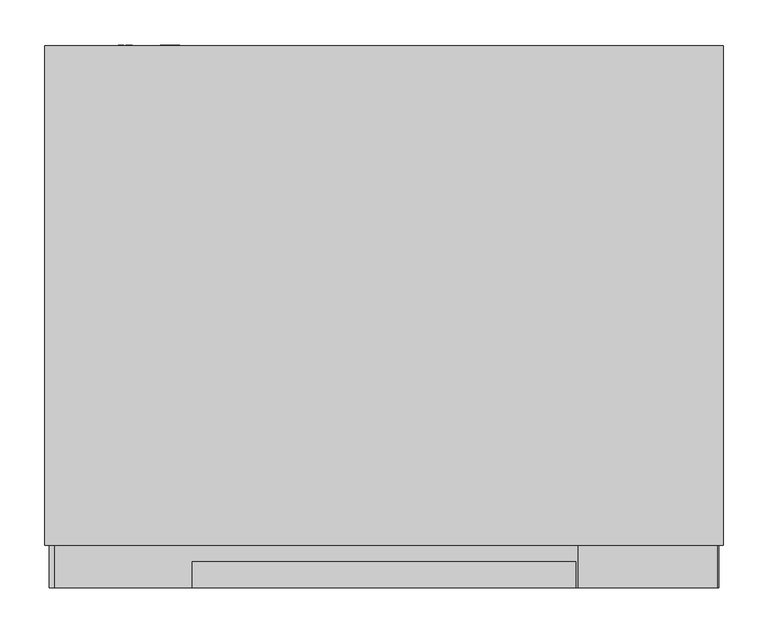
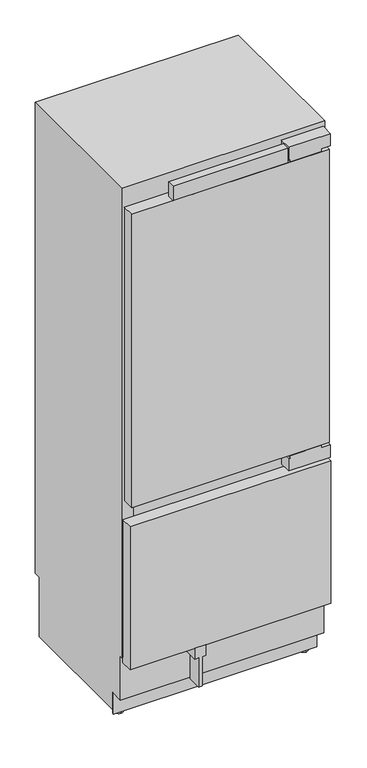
"""IFC4 building model written with IfcOpenShell, lengths in millimetres: proxy geometry, 11271080_CN_KF2801VI_R : 38280101_CN_11271080_KF2801VI_R."""

from ifc_helpers import new_model, si_unit, point, frame, frame_2d, origin, place, context, project, spatial, polyline, circle_curve, trimmed, segment, composite_curve, outline, extrude, source, transform, mapped, element, save
from ifc_brep_helpers import plane_surface, cylinder_surface, advanced_brep


def specialty_equipment_cda442a2(model_context):
    return source(origin(), model_context, "Body", "SolidModel", [
        extrude(outline(polyline([(247.0, -133.0), (205.0, -133.0), (205.0, -118.5), (90.0, -118.5), (90.0, -105.5), (205.0, -105.5), (205.0, -91.0), (247.0, -91.0), (247.0, -133.0)])), frame((0.0, 0.0, 0.0), z_axis=(0.0, 1.0, 0.0), x_axis=(0.0, 0.0, 1.0)), (0.0, 0.0, 1.0), 54.0),
        extrude(outline(polyline([(-367.0, 47.0), (367.0, 47.0), (367.0, 0.0), (-367.0, 0.0), (-367.0, 47.0)])), frame((0.0, 0.0, 883.0), z_axis=(0.0, 0.0, 1.0), x_axis=(1.0, 0.0, 0.0)), (0.0, 0.0, 1.0), 1153.0),
        extrude(outline(polyline([(-373.0, 47.0), (373.0, 47.0), (373.0, 0.0), (-373.0, 0.0), (-373.0, 47.0)])), frame((0.0, 0.0, 247.0), z_axis=(0.0, 0.0, 1.0), x_axis=(1.0, 0.0, 0.0)), (0.0, 0.0, 1.0), 562.0),
        extrude(outline(polyline([(-213.5, 29.0), (213.5, 29.0), (213.5, 0.0), (-213.5, 0.0), (-213.5, 29.0)])), frame((0.0, 0.0, 2036.0), z_axis=(0.0, 0.0, 1.0), x_axis=(1.0, 0.0, 0.0)), (0.0, 0.0, 1.0), 56.0),
        extrude(outline(polyline([(180.5, 1973.4), (217.625, 1914.0), (216.4457524, 1914.0), (179.3207524, 1973.4), (180.5, 1973.4)])), frame((-69.0, 0.0, 0.0), z_axis=(1.0, 0.0, 0.0), x_axis=(0.0, 1.0, 0.0)), (0.0, 0.0, 1.0), 138.0),
        extrude(outline(polyline([(544.0, 1998.0), (544.0, 1796.0), (474.0, 1796.0), (433.0, 1907.0), (222.0, 1907.0), (177.0, 1979.0), (129.0, 1998.0), (544.0, 1998.0)])), frame((-332.0, 0.0, 0.0), z_axis=(1.0, 0.0, 0.0), x_axis=(0.0, 1.0, 0.0)), (0.0, 0.0, 1.0), 664.0),
        extrude(outline(polyline([(-332.0, 544.0), (332.0, 544.0), (332.0, 519.0), (-332.0, 519.0), (-332.0, 544.0)])), frame((0.0, 0.0, 303.0), z_axis=(0.0, 0.0, 1.0), x_axis=(1.0, 0.0, 0.0)), (0.0, 0.0, 1.0), 467.0),
        extrude(outline(polyline([(-332.0, 544.0), (332.0, 544.0), (332.0, 47.0), (-332.0, 47.0), (-332.0, 544.0)])), frame((0.0, 0.0, 770.0), z_axis=(0.0, 0.0, 1.0), x_axis=(1.0, 0.0, 0.0)), (0.0, 0.0, 1.0), 144.0),
        extrude(outline(polyline([(46.0510837, -237.101717), (37.4134902, -239.1745179), (46.0453554, -241.6868463), (46.0453554, -243.5601414), (37.4089549, -246.0799633), (46.0493903, -248.1581876), (46.0493903, -249.4649805), (36.0005458, -246.7156324), (36.0005458, -245.372208), (44.8261022, -242.6342221), (35.9987467, -240.0620509), (35.9987287, -238.5451466), (46.0510837, -235.800191), (46.0510837, -237.101717)])), frame((0.0, 604.0, 0.0), z_axis=(0.0, 1.0, 0.0), x_axis=(0.0, 0.0, 1.0)), (0.0, 0.0, 1.0), 1.0),
        extrude(outline(polyline([(46.0485238, -228.7401503), (41.1363122, -228.7401503), (46.0468162, -233.884602), (46.0468162, -235.6328316), (41.9156889, -231.3260313), (36.000035, -235.8032231), (36.000035, -234.2795519), (41.0742849, -230.4391666), (39.4525334, -228.7395503), (35.9999292, -228.7395503), (35.9999292, -227.4795491), (46.0485238, -227.4795491), (46.0485238, -228.7401503)])), frame((0.0, 604.0, 0.0), z_axis=(0.0, 1.0, 0.0), x_axis=(0.0, 0.0, 1.0)), (0.0, 0.0, 1.0), 1.0),
        extrude(outline(composite_curve([segment(trimmed(circle_curve(frame_2d((41.0, -238.0)), 7.5), [point((33.5, -238.0))], [point((48.5, -238.0))], False, "CARTESIAN"), True, "CONTINUOUS"), segment(trimmed(circle_curve(frame_2d((41.0, -238.0)), 7.5), [point((48.5, -238.0))], [point((33.5, -238.0))], False, "CARTESIAN"), True, "CONTINUOUS")], self_intersect=False)), frame((0.0, 577.0, 0.0), z_axis=(0.0, 1.0, 0.0), x_axis=(0.0, 0.0, 1.0)), (0.0, 0.0, 1.0), 27.0),
        extrude(outline(polyline([(2095.0, 371.5), (2095.0, 216.5), (2047.0, 216.5), (2047.0, 222.5), (2036.5, 222.5), (2036.5, 337.5), (2047.0, 337.5), (2047.0, 371.5), (2095.0, 371.5)])), frame((0.0, 0.0, 0.0), z_axis=(0.0, 1.0, 0.0), x_axis=(0.0, 0.0, 1.0)), (0.0, 0.0, 1.0), 47.0),
        extrude(outline(polyline([(871.0, 216.5), (823.0, 216.5), (823.0, 371.5), (871.0, 371.5), (871.0, 337.5), (881.0, 337.5), (881.0, 222.5), (871.0, 222.5), (871.0, 216.5)])), frame((0.0, 0.0, 0.0), z_axis=(0.0, 1.0, 0.0), x_axis=(0.0, 0.0, 1.0)), (0.0, 0.0, 1.0), 47.0),
        extrude(outline(polyline([(99.0373308, -287.7645771), (97.7615342, -287.7645771), (97.7615342, -281.8195541), (94.7968516, -281.8195541), (94.7968516, -287.469579), (93.5246295, -287.469579), (93.5246295, -281.8415693), (90.2570046, -281.8415693), (90.2570046, -287.9619689), (88.9546219, -287.9619689), (88.9546219, -280.5443524), (99.0373308, -280.5443524), (99.0373308, -287.7645771)])), frame((0.0, 604.0, 0.0), z_axis=(0.0, 1.0, 0.0), x_axis=(0.0, 0.0, 1.0)), (0.0, 0.0, 1.0), 1.0),
        extrude(outline(polyline([(99.0458, -291.0619704), (90.2663944, -291.0619704), (90.2663944, -296.1145879), (89.0134802, -296.1145879), (89.0134802, -289.8423809), (99.0458, -289.8423809), (99.0458, -291.0619704)])), frame((0.0, 604.0, 0.0), z_axis=(0.0, 1.0, 0.0), x_axis=(0.0, 0.0, 1.0)), (0.0, 0.0, 1.0), 1.0),
        extrude(outline(composite_curve([segment(trimmed(circle_curve(frame_2d((94.0, -288.0)), 7.5), [point((86.5, -288.0))], [point((101.5, -288.0))], False, "CARTESIAN"), True, "CONTINUOUS"), segment(trimmed(circle_curve(frame_2d((94.0, -288.0)), 7.5), [point((101.5, -288.0))], [point((86.5, -288.0))], False, "CARTESIAN"), True, "CONTINUOUS")], self_intersect=False)), frame((0.0, 577.0, 0.0), z_axis=(0.0, 1.0, 0.0), x_axis=(0.0, 0.0, 1.0)), (0.0, 0.0, 1.0), 27.0),
        extrude(outline(polyline([(-378.0, 104.0), (378.0, 104.0), (378.0, 99.0), (-378.0, 99.0), (-378.0, 104.0)])), frame((0.0, 0.0, 14.0), z_axis=(0.0, 0.0, 1.0), x_axis=(1.0, 0.0, 0.0)), (0.0, 0.0, 1.0), 83.0),
        advanced_brep(
        [(-344.0, 139.0, 0.0), (-344.0, 109.0, 0.0), (-344.0, 139.0, 7.0), (-344.0, 109.0, 7.0), (-344.0, 128.7, 7.0), (-344.0, 119.3, 7.0), (-344.0, 128.7, 28.0), (-344.0, 119.3, 28.0)],
        [
            (0, 1, circle_curve(frame((-344.0, 124.0, 0.0), z_axis=(0.0, 0.0, -1.0), x_axis=(1.0, 0.0, 0.0)), 15.0)),
            (1, 0, circle_curve(frame((-344.0, 124.0, 0.0), z_axis=(0.0, 0.0, -1.0), x_axis=(1.0, 0.0, 0.0)), 15.0)),
            (2, 3, circle_curve(frame((-344.0, 124.0, 7.0), z_axis=(0.0, 0.0, 1.0), x_axis=(1.0, 0.0, 0.0)), 15.0)),
            (3, 2, circle_curve(frame((-344.0, 124.0, 7.0), z_axis=(0.0, 0.0, 1.0), x_axis=(1.0, 0.0, 0.0)), 15.0)),
            (4, 5, circle_curve(frame((-344.0, 124.0, 7.0), z_axis=(0.0, 0.0, -1.0), x_axis=(0.0, -1.0, 0.0)), 4.7)),
            (5, 4, circle_curve(frame((-344.0, 124.0, 7.0), z_axis=(0.0, 0.0, -1.0), x_axis=(0.0, -1.0, 0.0)), 4.7)),
            (0, 2),
            (3, 1),
            (6, 7, circle_curve(frame((-344.0, 124.0, 28.0), z_axis=(0.0, 0.0, 1.0), x_axis=(0.0, -1.0, 0.0)), 4.7)),
            (7, 6, circle_curve(frame((-344.0, 124.0, 28.0), z_axis=(0.0, 0.0, 1.0), x_axis=(0.0, -1.0, 0.0)), 4.7)),
            (7, 5),
            (4, 6),
        ],
        [
            plane_surface(frame((-329.0, 124.0, 0.0), z_axis=(0.0, 0.0, -1.0), x_axis=(0.0, -1.0, 0.0))),
            plane_surface(frame((-329.0, 124.0, 7.0), z_axis=(0.0, 0.0, 1.0), x_axis=(0.0, 1.0, 0.0))),
            cylinder_surface(frame((-344.0, 124.0, 7.0), z_axis=(0.0, 0.0, -1.0), x_axis=(1.0, 0.0, 0.0)), 15.0),
            plane_surface(frame((-344.0, 119.3, 28.0), z_axis=(0.0, 0.0, 1.0), x_axis=(1.0, 0.0, 0.0))),
            cylinder_surface(frame((-344.0, 124.0, 28.0), z_axis=(0.0, 0.0, -1.0), x_axis=(0.0, -1.0, 0.0)), 4.7),
        ],
        [
            (0, [[1, 2]]),
            (1, [[3, 4], [5, 6]]),
            (2, [[-1, 7, -4, 8]]),
            (2, [[-2, -8, -3, -7]]),
            (3, [[9, 10]]),
            (4, [[-10, 11, -5, 12]]),
            (4, [[-9, -12, -6, -11]]),
        ],
    ),
        advanced_brep(
        [(344.0, 139.0, 0.0), (344.0, 109.0, 0.0), (344.0, 139.0, 7.0), (344.0, 109.0, 7.0), (344.0, 128.7, 7.0), (344.0, 119.3, 7.0), (344.0, 128.7, 28.0), (344.0, 119.3, 28.0)],
        [
            (0, 1, circle_curve(frame((344.0, 124.0, 0.0), z_axis=(0.0, 0.0, -1.0), x_axis=(1.0, 0.0, 0.0)), 15.0)),
            (1, 0, circle_curve(frame((344.0, 124.0, 0.0), z_axis=(0.0, 0.0, -1.0), x_axis=(1.0, 0.0, 0.0)), 15.0)),
            (2, 3, circle_curve(frame((344.0, 124.0, 7.0), z_axis=(0.0, 0.0, 1.0), x_axis=(1.0, 0.0, 0.0)), 15.0)),
            (3, 2, circle_curve(frame((344.0, 124.0, 7.0), z_axis=(0.0, 0.0, 1.0), x_axis=(1.0, 0.0, 0.0)), 15.0)),
            (4, 5, circle_curve(frame((344.0, 124.0, 7.0), z_axis=(0.0, 0.0, -1.0), x_axis=(0.0, -1.0, 0.0)), 4.7)),
            (5, 4, circle_curve(frame((344.0, 124.0, 7.0), z_axis=(0.0, 0.0, -1.0), x_axis=(0.0, -1.0, 0.0)), 4.7)),
            (0, 2),
            (3, 1),
            (6, 7, circle_curve(frame((344.0, 124.0, 28.0), z_axis=(0.0, 0.0, 1.0), x_axis=(0.0, -1.0, 0.0)), 4.7)),
            (7, 6, circle_curve(frame((344.0, 124.0, 28.0), z_axis=(0.0, 0.0, 1.0), x_axis=(0.0, -1.0, 0.0)), 4.7)),
            (7, 5),
            (4, 6),
        ],
        [
            plane_surface(frame((-329.0, 124.0, 0.0), z_axis=(0.0, 0.0, -1.0), x_axis=(0.0, -1.0, 0.0))),
            plane_surface(frame((-329.0, 124.0, 7.0), z_axis=(0.0, 0.0, 1.0), x_axis=(0.0, 1.0, 0.0))),
            cylinder_surface(frame((344.0, 124.0, 7.0), z_axis=(0.0, 0.0, -1.0), x_axis=(1.0, 0.0, 0.0)), 15.0),
            plane_surface(frame((-344.0, 119.3, 28.0), z_axis=(0.0, 0.0, 1.0), x_axis=(1.0, 0.0, 0.0))),
            cylinder_surface(frame((344.0, 124.0, 28.0), z_axis=(0.0, 0.0, -1.0), x_axis=(0.0, -1.0, 0.0)), 4.7),
        ],
        [
            (0, [[1, 2]]),
            (1, [[3, 4], [5, 6]]),
            (2, [[-1, 7, -4, 8]]),
            (2, [[-2, -8, -3, -7]]),
            (3, [[9, 10]]),
            (4, [[-10, 11, -5, 12]]),
            (4, [[-9, -12, -6, -11]]),
        ],
    ),
        advanced_brep(
        [(378.0, 47.0, 2114.0), (378.0, 47.0, 267.0), (378.0, 54.0, 267.0), (378.0, 54.0, 97.0), (378.0, 104.0, 97.0), (378.0, 104.0, 28.0), (378.0, 577.0, 28.0), (378.0, 577.0, 263.0), (378.0, 604.0, 263.0), (378.0, 604.0, 2114.0), (-378.0, 47.0, 2114.0), (-378.0, 604.0, 2114.0), (-378.0, 604.0, 263.0), (-378.0, 577.0, 263.0), (-378.0, 577.0, 28.0), (-378.0, 104.0, 28.0), (-378.0, 104.0, 97.0), (-378.0, 54.0, 97.0), (-378.0, 54.0, 267.0), (-378.0, 47.0, 267.0), (318.0, 577.0, 28.0), (318.0, 577.0, 14.0), (-318.0, 577.0, 14.0), (-318.0, 577.0, 28.0), (318.0, 104.0, 14.0), (-318.0, 104.0, 14.0), (-318.0, 104.0, 28.0), (318.0, 104.0, 28.0), (332.0, 47.0, 1998.0), (332.0, 47.0, 303.0), (-332.0, 47.0, 303.0), (-332.0, 47.0, 1998.0), (332.0, 544.0, 1998.0), (-332.0, 544.0, 1998.0), (-332.0, 544.0, 303.0), (332.0, 544.0, 303.0), (-336.5, 202.8193473, 28.0), (-355.5, 202.8193473, 28.0), (-355.5, 153.1806527, 28.0), (-336.5, 153.1806527, 28.0), (-356.0, 525.8193473, 28.0), (-356.0, 476.1806527, 28.0), (-340.0, 476.1806527, 28.0), (-340.0, 525.8193473, 28.0), (355.5, 153.1806527, 28.0), (355.5, 202.8193473, 28.0), (336.5, 202.8193473, 28.0), (336.5, 153.1806527, 28.0), (340.0, 525.8193473, 28.0), (340.0, 476.1806527, 28.0), (356.0, 476.1806527, 28.0), (356.0, 525.8193473, 28.0), (-336.5, 203.0, 25.0), (-336.5, 153.0, 25.0), (-355.5, 153.0, 25.0), (-355.5, 203.0, 25.0), (-336.5, 178.0, 25.0), (-355.5, 178.0, 25.0), (355.5, 178.0, 25.0), (355.5, 153.0, 25.0), (355.5, 203.0, 25.0), (336.5, 203.0, 25.0), (336.5, 153.0, 25.0), (336.5, 178.0, 25.0), (-356.0, 526.0, 25.0), (-356.0, 476.0, 25.0), (-356.0, 501.0, 25.0), (-340.0, 526.0, 25.0), (-340.0, 476.0, 25.0), (-340.0, 501.0, 25.0), (340.0, 526.0, 25.0), (340.0, 476.0, 25.0), (340.0, 501.0, 25.0), (356.0, 526.0, 25.0), (356.0, 476.0, 25.0), (356.0, 501.0, 25.0)],
        [
            (0, 1),
            (1, 2),
            (2, 3),
            (3, 4),
            (4, 5),
            (5, 6),
            (6, 7),
            (7, 8),
            (8, 9),
            (9, 0),
            (10, 11),
            (11, 12),
            (12, 13),
            (13, 14),
            (14, 15),
            (15, 16),
            (16, 17),
            (17, 18),
            (18, 19),
            (19, 10),
            (9, 11),
            (10, 0),
            (8, 12),
            (7, 13),
            (6, 20),
            (20, 21),
            (21, 22),
            (22, 23),
            (23, 14),
            (21, 24),
            (24, 25),
            (25, 22),
            (4, 16),
            (15, 26),
            (26, 25),
            (24, 27),
            (27, 5),
            (3, 17),
            (2, 18),
            (1, 19),
            (28, 29),
            (29, 30),
            (30, 31),
            (31, 28),
            (32, 33),
            (33, 34),
            (34, 35),
            (35, 32),
            (35, 29),
            (28, 32),
            (34, 30),
            (33, 31),
            (23, 26),
            (36, 37),
            (37, 38),
            (38, 39),
            (39, 36),
            (40, 41),
            (41, 42),
            (42, 43),
            (43, 40),
            (27, 20),
            (44, 45),
            (45, 46),
            (46, 47),
            (47, 44),
            (48, 49),
            (49, 50),
            (50, 51),
            (51, 48),
            (52, 53, circle_curve(frame((-336.5, 178.0, 25.0), z_axis=(-1.0, 0.0, 0.0), x_axis=(0.0, -1.0, 0.0)), 25.0)),
            (53, 54),
            (54, 55, circle_curve(frame((-355.5, 178.0, 25.0), z_axis=(1.0, 0.0, 0.0), x_axis=(0.0, -1.0, 0.0)), 25.0)),
            (55, 52),
            (53, 39, circle_curve(frame((-336.5, 178.0, 25.0), z_axis=(-1.0, 0.0, 0.0), x_axis=(0.0, -1.0, 0.0)), 25.0)),
            (38, 54, circle_curve(frame((-355.5, 178.0, 25.0), z_axis=(1.0, 0.0, 0.0), x_axis=(0.0, -1.0, 0.0)), 25.0)),
            (55, 37, circle_curve(frame((-355.5, 178.0, 25.0), z_axis=(1.0, 0.0, 0.0), x_axis=(0.0, -1.0, 0.0)), 25.0)),
            (36, 52, circle_curve(frame((-336.5, 178.0, 25.0), z_axis=(-1.0, 0.0, 0.0), x_axis=(0.0, -1.0, 0.0)), 25.0)),
            (52, 56),
            (56, 53),
            (54, 57),
            (57, 55),
            (58, 59),
            (59, 60, circle_curve(frame((355.5, 178.0, 25.0), z_axis=(1.0, 0.0, 0.0), x_axis=(0.0, -1.0, 0.0)), 25.0)),
            (60, 58),
            (60, 45, circle_curve(frame((355.5, 178.0, 25.0), z_axis=(1.0, 0.0, 0.0), x_axis=(0.0, -1.0, 0.0)), 25.0)),
            (44, 59, circle_curve(frame((355.5, 178.0, 25.0), z_axis=(1.0, 0.0, 0.0), x_axis=(0.0, -1.0, 0.0)), 25.0)),
            (61, 62, circle_curve(frame((336.5, 178.0, 25.0), z_axis=(-1.0, 0.0, 0.0), x_axis=(0.0, -1.0, 0.0)), 25.0)),
            (62, 63),
            (63, 61),
            (62, 47, circle_curve(frame((336.5, 178.0, 25.0), z_axis=(-1.0, 0.0, 0.0), x_axis=(0.0, -1.0, 0.0)), 25.0)),
            (46, 61, circle_curve(frame((336.5, 178.0, 25.0), z_axis=(-1.0, 0.0, 0.0), x_axis=(0.0, -1.0, 0.0)), 25.0)),
            (64, 65, circle_curve(frame((-356.0, 501.0, 25.0), z_axis=(-1.0, 0.0, 0.0), x_axis=(0.0, -1.0, 0.0)), 25.0)),
            (65, 66),
            (66, 64),
            (65, 41, circle_curve(frame((-356.0, 501.0, 25.0), z_axis=(-1.0, 0.0, 0.0), x_axis=(0.0, -1.0, 0.0)), 25.0)),
            (40, 64, circle_curve(frame((-356.0, 501.0, 25.0), z_axis=(-1.0, 0.0, 0.0), x_axis=(0.0, -1.0, 0.0)), 25.0)),
            (64, 67),
            (67, 68, circle_curve(frame((-340.0, 501.0, 25.0), z_axis=(-1.0, 0.0, 0.0), x_axis=(0.0, -1.0, 0.0)), 25.0)),
            (68, 65),
            (43, 67, circle_curve(frame((-340.0, 501.0, 25.0), z_axis=(-1.0, 0.0, 0.0), x_axis=(0.0, -1.0, 0.0)), 25.0)),
            (68, 42, circle_curve(frame((-340.0, 501.0, 25.0), z_axis=(-1.0, 0.0, 0.0), x_axis=(0.0, -1.0, 0.0)), 25.0)),
            (67, 69),
            (69, 68),
            (70, 71, circle_curve(frame((340.0, 501.0, 25.0), z_axis=(-1.0, 0.0, 0.0), x_axis=(0.0, -1.0, 0.0)), 25.0)),
            (71, 72),
            (72, 70),
            (71, 49, circle_curve(frame((340.0, 501.0, 25.0), z_axis=(-1.0, 0.0, 0.0), x_axis=(0.0, -1.0, 0.0)), 25.0)),
            (48, 70, circle_curve(frame((340.0, 501.0, 25.0), z_axis=(-1.0, 0.0, 0.0), x_axis=(0.0, -1.0, 0.0)), 25.0)),
            (70, 73),
            (73, 74, circle_curve(frame((356.0, 501.0, 25.0), z_axis=(-1.0, 0.0, 0.0), x_axis=(0.0, -1.0, 0.0)), 25.0)),
            (74, 71),
            (51, 73, circle_curve(frame((356.0, 501.0, 25.0), z_axis=(-1.0, 0.0, 0.0), x_axis=(0.0, -1.0, 0.0)), 25.0)),
            (74, 50, circle_curve(frame((356.0, 501.0, 25.0), z_axis=(-1.0, 0.0, 0.0), x_axis=(0.0, -1.0, 0.0)), 25.0)),
            (73, 75),
            (75, 74),
            (59, 62),
            (61, 60),
        ],
        [
            plane_surface(frame((378.0, 604.0, 2114.0), z_axis=(1.0, 0.0, 0.0), x_axis=(0.0, -1.0, 0.0))),
            plane_surface(frame((-378.0, 604.0, 2114.0), z_axis=(-1.0, 0.0, 0.0), x_axis=(0.0, 1.0, 0.0))),
            plane_surface(frame((-378.0, 47.0, 2114.0), z_axis=(0.0, 0.0, 1.0), x_axis=(1.0, 0.0, 0.0))),
            plane_surface(frame((-378.0, 604.0, 2114.0), z_axis=(0.0, 1.0, 0.0), x_axis=(1.0, 0.0, 0.0))),
            plane_surface(frame((-378.0, 604.0, 263.0), z_axis=(0.0, 0.0, -1.0), x_axis=(1.0, 0.0, 0.0))),
            plane_surface(frame((-378.0, 577.0, 263.0), z_axis=(0.0, 1.0, 0.0), x_axis=(1.0, 0.0, 0.0))),
            plane_surface(frame((-378.0, 577.0, 14.0), z_axis=(0.0, 0.0, -1.0), x_axis=(1.0, 0.0, 0.0))),
            plane_surface(frame((-378.0, 104.0, 14.0), z_axis=(0.0, -1.0, 0.0), x_axis=(1.0, 0.0, 0.0))),
            plane_surface(frame((-378.0, 104.0, 97.0), z_axis=(0.0, 0.0, -1.0), x_axis=(1.0, 0.0, 0.0))),
            plane_surface(frame((-378.0, 54.0, 97.0), z_axis=(0.0, -1.0, 0.0), x_axis=(1.0, 0.0, 0.0))),
            plane_surface(frame((-378.0, 54.0, 267.0), z_axis=(0.0, 0.0, -1.0), x_axis=(1.0, 0.0, 0.0))),
            plane_surface(frame((-378.0, 47.0, 267.0), z_axis=(0.0, -1.0, 0.0), x_axis=(1.0, 0.0, 0.0))),
            plane_surface(frame((332.0, 544.0, 1998.0), z_axis=(0.0, -1.0, 0.0), x_axis=(0.0, 0.0, -1.0))),
            plane_surface(frame((332.0, 544.0, 1998.0), z_axis=(-1.0, 0.0, 0.0), x_axis=(0.0, -1.0, 0.0))),
            plane_surface(frame((332.0, 544.0, 303.0), z_axis=(0.0, 0.0, 1.0), x_axis=(0.0, -1.0, 0.0))),
            plane_surface(frame((-332.0, 544.0, 303.0), z_axis=(1.0, 0.0, 0.0), x_axis=(0.0, -1.0, 0.0))),
            plane_surface(frame((-332.0, 544.0, 1998.0), z_axis=(0.0, 0.0, -1.0), x_axis=(0.0, -1.0, 0.0))),
            plane_surface(frame((-378.0, 604.0, 28.0), z_axis=(0.0, 0.0, -1.0), x_axis=(-1.0, 0.0, 0.0))),
            plane_surface(frame((-318.0, 104.0, 28.0), z_axis=(-1.0, 0.0, 0.0), x_axis=(0.0, 0.0, -1.0))),
            plane_surface(frame((318.0, 604.0, 28.0), z_axis=(1.0, 0.0, 0.0), x_axis=(0.0, 0.0, -1.0))),
            cylinder_surface(frame((-470.6988927, 178.0, 25.0), z_axis=(1.0, 0.0, 0.0), x_axis=(0.0, -1.0, 0.0)), 25.0),
            plane_surface(frame((-336.5, 178.0, 25.0), z_axis=(1.0, 0.0, 0.0), x_axis=(0.0, -1.0, 0.0))),
            plane_surface(frame((-355.5, 178.0, 25.0), z_axis=(-1.0, 0.0, 0.0), x_axis=(0.0, -1.0, 0.0))),
            plane_surface(frame((355.5, 178.0, 25.0), z_axis=(1.0, 0.0, 0.0), x_axis=(0.0, -1.0, 0.0))),
            plane_surface(frame((336.5, 178.0, 25.0), z_axis=(-1.0, 0.0, 0.0), x_axis=(0.0, -1.0, 0.0))),
            plane_surface(frame((-356.0, 501.0, 25.0), z_axis=(-1.0, 0.0, 0.0), x_axis=(0.0, -1.0, 0.0))),
            cylinder_surface(frame((-470.6988927, 501.0, 25.0), z_axis=(1.0, 0.0, 0.0), x_axis=(0.0, -1.0, 0.0)), 25.0),
            plane_surface(frame((-340.0, 501.0, 25.0), z_axis=(1.0, 0.0, 0.0), x_axis=(0.0, -1.0, 0.0))),
            plane_surface(frame((340.0, 501.0, 25.0), z_axis=(-1.0, 0.0, 0.0), x_axis=(0.0, -1.0, 0.0))),
            plane_surface(frame((356.0, 501.0, 25.0), z_axis=(1.0, 0.0, 0.0), x_axis=(0.0, -1.0, 0.0))),
        ],
        [
            (0, [[1, 2, 3, 4, 5, 6, 7, 8, 9, 10]]),
            (1, [[11, 12, 13, 14, 15, 16, 17, 18, 19, 20]]),
            (2, [[-10, 21, -11, 22]]),
            (3, [[-9, 23, -12, -21]]),
            (4, [[-8, 24, -13, -23]]),
            (5, [[-24, -7, 25, 26, 27, 28, 29, -14]]),
            (6, [[-27, 30, 31, 32]]),
            (7, [[33, -16, 34, 35, -31, 36, 37, -5]]),
            (8, [[-4, 38, -17, -33]]),
            (9, [[-3, 39, -18, -38]]),
            (10, [[-2, 40, -19, -39]]),
            (11, [[-1, -22, -20, -40], [41, 42, 43, 44]]),
            (12, [[45, 46, 47, 48]]),
            (13, [[-48, 49, -41, 50]]),
            (14, [[-47, 51, -42, -49]]),
            (15, [[-46, 52, -43, -51]]),
            (16, [[-45, -50, -44, -52]]),
            (17, [[53, -34, -15, -29], [54, 55, 56, 57], [58, 59, 60, 61]]),
            (17, [[62, -25, -6, -37], [63, 64, 65, 66], [67, 68, 69, 70]]),
            (18, [[-53, -28, -32, -35]]),
            (19, [[-62, -36, -30, -26]]),
            (20, [[71, 72, 73, 74]]),
            (20, [[-72, 75, -56, 76]]),
            (20, [[-74, 77, -54, 78]]),
            (21, [[-71, 79, 80]]),
            (21, [[-80, -79, -78, -57, -75]]),
            (22, [[-73, 81, 82]]),
            (22, [[-81, -76, -55, -77, -82]]),
            (23, [[83, 84, 85]]),
            (23, [[-83, -85, 86, -63, 87]]),
            (24, [[88, 89, 90]]),
            (24, [[-89, 91, -65, 92, -90]]),
            (25, [[93, 94, 95]]),
            (25, [[-94, 96, -58, 97, -95]]),
            (26, [[-93, 98, 99, 100]]),
            (26, [[-98, -97, -61, 101]]),
            (26, [[-100, 102, -59, -96]]),
            (27, [[-99, 103, 104]]),
            (27, [[-104, -103, -101, -60, -102]]),
            (28, [[105, 106, 107]]),
            (28, [[-106, 108, -67, 109, -107]]),
            (26, [[-105, 110, 111, 112]]),
            (26, [[-110, -109, -70, 113]]),
            (26, [[-112, 114, -68, -108]]),
            (29, [[-111, 115, 116]]),
            (29, [[-116, -115, -113, -69, -114]]),
            (20, [[-84, 117, -88, 118]]),
            (20, [[-117, -87, -66, -91]]),
            (20, [[-118, -92, -64, -86]]),
        ],
    ),
    ])


if __name__ == "__main__":
    model = new_model("IFC4")
    model_context = context("Model", 3, world=origin())
    ifc_project = project(units=[si_unit("LENGTHUNIT", "METRE", prefix="MILLI")], contexts=[model_context])
    site = spatial("IfcSite", under=ifc_project)
    building = spatial("IfcBuilding", under=site)
    placement = place(None, origin())
    specialty_equipment_shape = specialty_equipment_cda442a2(model_context)
    element("IfcBuildingElementProxy", 1, Name="11271080_CN_KF2801VI_R : 38280101_CN_11271080_KF2801VI_R", ObjectType="11271080_CN_KF2801VI_R : 38280101_CN_11271080_KF2801VI_R", at=placement, inside=building, context=model_context, shape_type="MappedRepresentation", body=[
        mapped(specialty_equipment_shape, transform((0.0, 0.0, 0.0), x_axis=(1.0, 0.0, 0.0), y_axis=(0.0, 1.0, 0.0), z_axis=(0.0, 0.0, 1.0))),
    ])
    save(model, "model.ifc")
